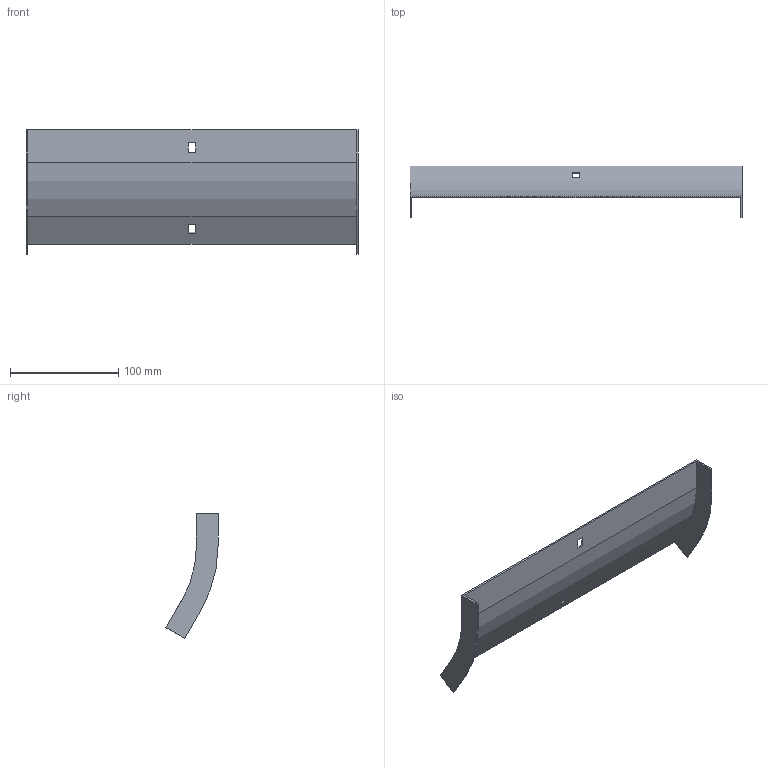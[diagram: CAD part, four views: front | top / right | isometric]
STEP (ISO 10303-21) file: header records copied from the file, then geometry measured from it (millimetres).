
FILE_DESCRIPTION (( 'STEP AP214' ), '1' );
FILE_NAME ('32G1P300.step', '2025-02-21T12:47:06', ( '' ), ( '' ), 'SwSTEP 2.0', 'SolidWorks 2023', '' );
FILE_SCHEMA (( 'AUTOMOTIVE_DESIGN' ));
Length unit declared in the file: millimetre
Products named in the file (1): 32G1P300
Bounding box: 307 x 48.2 x 115.23 mm (x, y, z)
Volume: 57890.2 mm3; surface area: 78676.8 mm2
Topology: 1 solids, 1 shells, 26 faces, 72 edges, 48 vertices
Faces by surface type: plane 22, cylinder 4
Entity records: 855 total; most frequent: CARTESIAN_POINT 147, ORIENTED_EDGE 144, DIRECTION 134, EDGE_CURVE 72, VECTOR 64, LINE 64, VERTEX_POINT 48, AXIS2_PLACEMENT_3D 35
